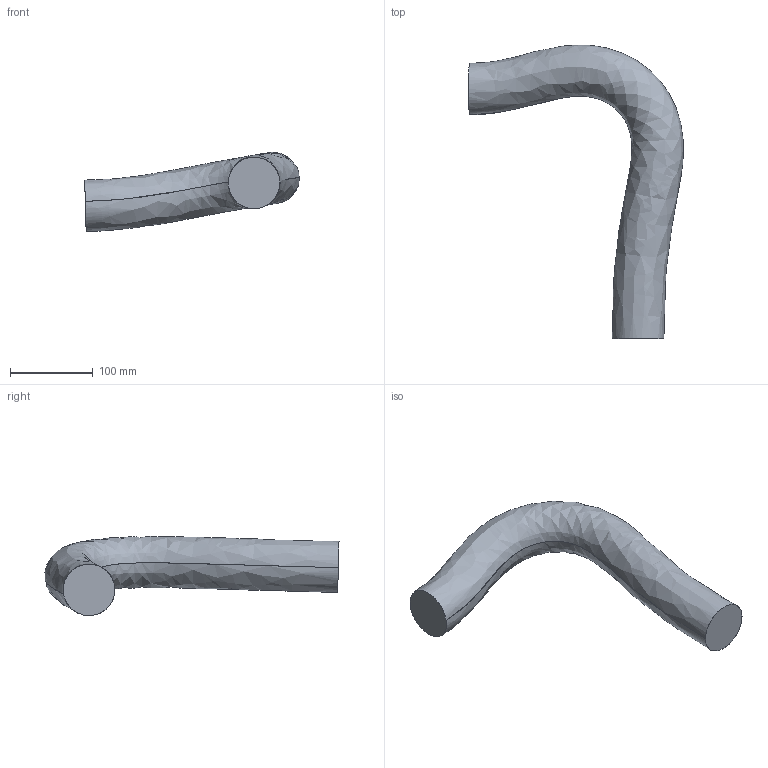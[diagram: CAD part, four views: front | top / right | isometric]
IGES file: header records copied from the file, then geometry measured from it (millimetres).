
Start section: SolidWorks IGES file using analytic representation for surfaces
Global section: file name: C:\Users\SEALDUN\OneDrive - ABB\Documents\R&D Robotics\Work Items\WI 632927\IGES\IRB5710-LID-SW_70kg-270_OC_02_IGES_J\IRB5710-LID_70kg-270_OmniCore_rev00_LINK05_CABLE.igs; native system: SolidWorks 2024; preprocessor: SolidWorks 2024; author: SEALDUN; date: 250707.155305; units: millimetre
Bounding box: 258.97 x 354.79 x 95.62 mm (x, y, z)
Surface area: 107260.1 mm2 (no closed solid volume)
Topology: 0 solids, 0 shells, 4 faces, 136 edges, 136 vertices
Faces by surface type: bspline 4
